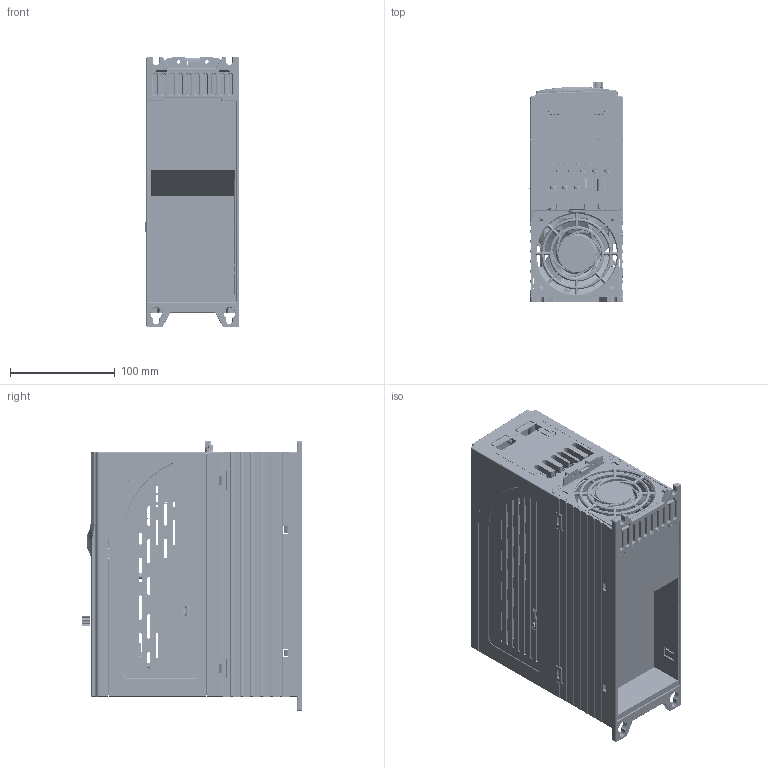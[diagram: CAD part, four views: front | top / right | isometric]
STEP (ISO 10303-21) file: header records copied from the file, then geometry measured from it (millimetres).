
FILE_DESCRIPTION((''),'2;1');
FILE_NAME('GD290-5R5G7R5P-4_ASM','2025-04-10T09:16:37',('Administrator'),(''),'CREO PARAMETRIC BY PTC INC, 2019080','CREO PARAMETRIC BY PTC INC, 2019080','');
FILE_SCHEMA(('CONFIG_CONTROL_DESIGN'));
Products named in the file (42): 70610781_1_1_1_1; 70610781_5; 80780150_1_1_1_1; 80740307_1_1_1_1; 80740309_1_1_1_1_1; 80740309_1_ASM_1_ASM_1_ASM_1_ASM; 80740309SY1_1_1_1_1; 80740309SY1_ASM_1_ASM_1_ASM_1_A_ASM; 80740308_1_1_1_1; 80740310_1_1_1_1; 78430408_1_1_1_1; 80740127_1_1_1_1; 80483523_1_1_1_1; 78441916_1_1_1_1; 78441922_1_1_1_1; 17003-04523-3D_A2_1_1_1_1; MAIN-TERMINAL-7R5-1-0825_2_10_1; H_TERMINAL_1_1_1_1_1; TD100-01-C_M4_NUT_1_1_1_1_1; TB1000-00_SCREW_10_1_1_1_1; TB1000-00_SCREW_INST_ASM_1_ASM__ASM; S_TERMINAL_1_1_1_1_1; H_Z_TERMINAL_2_1_1_1_1; TD40-01-C_M3_NUT_1_1_1_1_1; INSERT_2_1_1_1_1; GD270_TB_ASM_2_ASM_1_ASM_1_ASM__ASM; GD270_TB_SCED_0925_ASM_2_ASM_1__ASM; 17003-04523-3D_A2_ASM_2_ASM_1_A_ASM; PA2147_CT1_1_1_1_1; E-DIN0209-5_08MM-10_16MM-TMB_2_; E-DIN0302-5_08MM-TA_2_1_1_1; E-MJ0204-R_2_1_1_1; PA2147_CT1_ASM_1_ASM_1_ASM_1_AS_ASM; 2-21-19-282-BP802524HL_1_1_1_1; 17003-04547-3D_A2_1_1_1_1; E-LEDR12-100-500-2A_2_1_1_1; E-LEDR10-100-500-2_2_1_1_1; 17003-04547-3D_A2_ASM_1_ASM_1_A_ASM; 80810216_1_1; 80740306_1_1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
Assembly tree (67 placements, depth 7):
  GD290-5R5G7R5P-4_ASM
    00-GD270-7R5P-4_ASM_2_ASM_1_ASM_ASM
      70610781_1_1_1_1
      70610781_5
      80780150_1_1_1_1
      80740307_1_1_1_1
      80740309SY1_ASM_1_ASM_1_ASM_1_A_ASM
        80740309_1_ASM_1_ASM_1_ASM_1_ASM
          80740309_1_1_1_1_1
        80740309SY1_1_1_1_1
      80740308_1_1_1_1
      80740310_1_1_1_1
      78430408_1_1_1_1
      80740127_1_1_1_1
      80483523_1_1_1_1
      78441916_1_1_1_1
      78441922_1_1_1_1
      17003-04523-3D_A2_ASM_2_ASM_1_A_ASM
        17003-04523-3D_A2_1_1_1_1
        GD270_TB_SCED_0925_ASM_2_ASM_1__ASM
          GD270_TB_ASM_2_ASM_1_ASM_1_ASM__ASM
            MAIN-TERMINAL-7R5-1-0825_2_10_1
            H_TERMINAL_1_1_1_1_1  x3
            TD100-01-C_M4_NUT_1_1_1_1_1  x9
            TB1000-00_SCREW_INST_ASM_1_ASM__ASM  x9
              TB1000-00_SCREW_10_1_1_1_1
            S_TERMINAL_1_1_1_1_1  x3
            H_Z_TERMINAL_2_1_1_1_1  x3
            TD40-01-C_M3_NUT_1_1_1_1_1  x3
            INSERT_2_1_1_1_1  x3
      PA2147_CT1_ASM_1_ASM_1_ASM_1_AS_ASM
        PA2147_CT1_1_1_1_1
        E-DIN0209-5_08MM-10_16MM-TMB_2_
        E-DIN0302-5_08MM-TA_2_1_1_1
        E-MJ0204-R_2_1_1_1
      2-21-19-282-BP802524HL_1_1_1_1
      17003-04547-3D_A2_ASM_1_ASM_1_A_ASM
        17003-04547-3D_A2_1_1_1_1
        E-LEDR12-100-500-2A_2_1_1_1
        E-LEDR10-100-500-2_2_1_1_1
      80810216_1_1
      80740306_1_1
Bounding box: 90.43 x 211.32 x 259 mm (x, y, z)
Volume: 1264610.8 mm3; surface area: 1044939.3 mm2
Topology: 57 solids, 57 shells, 17462 faces, 49430 edges, 32088 vertices
Faces by surface type: plane 8065, cylinder 6196, cone 988, torus 960, bspline 731, extrusion 335, sphere 187
Entity records: 573073 total; most frequent: CARTESIAN_POINT 148794, ORIENTED_EDGE 90394, DIRECTION 86285, EDGE_CURVE 45197, AXIS2_PLACEMENT_3D 30075, VERTEX_POINT 29435, VECTOR 26135, LINE 25808
